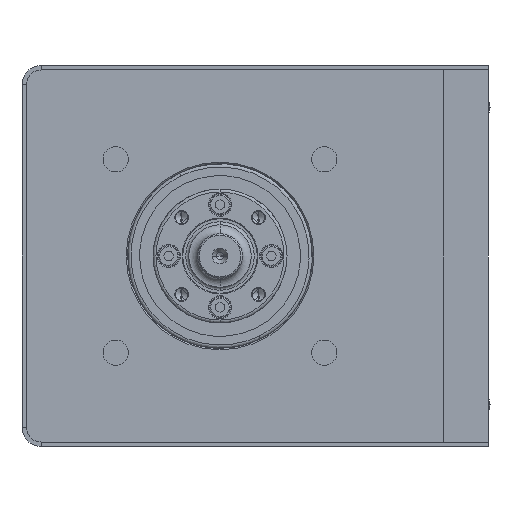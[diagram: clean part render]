
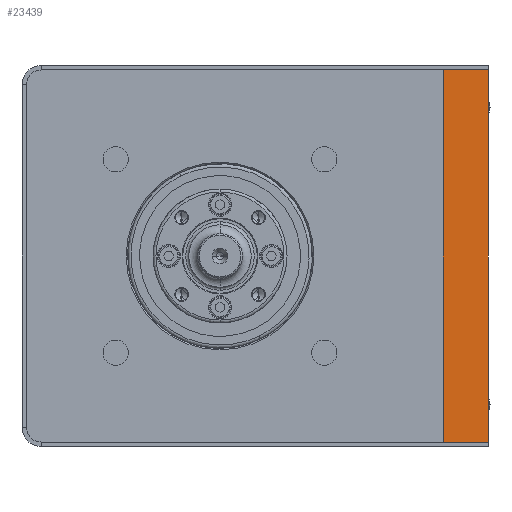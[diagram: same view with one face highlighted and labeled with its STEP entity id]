
A CAD part, left-side view. The second image highlights one B-rep face of the part: STEP entity #23439.
In plain terms, the highlighted planar face has unit normal (-1, 0, 0).
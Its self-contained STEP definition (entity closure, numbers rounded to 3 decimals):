
#587 = DIRECTION ( 'NONE',  ( 0., 0., 1. ) ) ;
#2288 = VECTOR ( 'NONE', #8052, 1000. ) ;
#4488 = EDGE_CURVE ( 'NONE', #9029, #89101, #101626, .T. ) ;
#6733 = PLANE ( 'NONE',  #82900 ) ;
#8052 = DIRECTION ( 'NONE',  ( 0., -1., 0. ) ) ;
#9029 = VERTEX_POINT ( 'NONE', #45119 ) ;
#11040 = CARTESIAN_POINT ( 'NONE',  ( -228.809, 0., -62.5 ) ) ;
#17409 = CARTESIAN_POINT ( 'NONE',  ( -228.809, 0., 62.5 ) ) ;
#18028 = EDGE_LOOP ( 'NONE', ( #28218, #98324, #117205, #78655 ) ) ;
#20472 = FACE_OUTER_BOUND ( 'NONE', #18028, .T. ) ;
#20657 = VECTOR ( 'NONE', #587, 1000. ) ;
#23439 = ADVANCED_FACE ( 'NONE', ( #20472 ), #6733, .F. ) ;
#23973 = CARTESIAN_POINT ( 'NONE',  ( -228.809, 15., -62.5 ) ) ;
#28218 = ORIENTED_EDGE ( 'NONE', *, *, #98713, .T. ) ;
#42808 = DIRECTION ( 'NONE',  ( 0., -1., 0. ) ) ;
#44097 = VECTOR ( 'NONE', #89216, 1000. ) ;
#45119 = CARTESIAN_POINT ( 'NONE',  ( -228.809, 15., -62.5 ) ) ;
#45625 = DIRECTION ( 'NONE',  ( 0., 0., -1. ) ) ;
#46071 = LINE ( 'NONE', #11040, #20657 ) ;
#56567 = VECTOR ( 'NONE', #42808, 1000. ) ;
#59156 = LINE ( 'NONE', #93936, #2288 ) ;
#66584 = LINE ( 'NONE', #118496, #44097 ) ;
#66843 = VERTEX_POINT ( 'NONE', #17409 ) ;
#67100 = CARTESIAN_POINT ( 'NONE',  ( -228.809, 15., 62.5 ) ) ;
#78655 = ORIENTED_EDGE ( 'NONE', *, *, #4488, .T. ) ;
#82900 = AXIS2_PLACEMENT_3D ( 'NONE', #112736, #112326, #45625 ) ;
#89101 = VERTEX_POINT ( 'NONE', #102172 ) ;
#89216 = DIRECTION ( 'NONE',  ( 0., 0., 1. ) ) ;
#93082 = VERTEX_POINT ( 'NONE', #67100 ) ;
#93936 = CARTESIAN_POINT ( 'NONE',  ( -228.809, 15., 62.5 ) ) ;
#98324 = ORIENTED_EDGE ( 'NONE', *, *, #100983, .F. ) ;
#98713 = EDGE_CURVE ( 'NONE', #89101, #66843, #46071, .T. ) ;
#100983 = EDGE_CURVE ( 'NONE', #93082, #66843, #59156, .T. ) ;
#101626 = LINE ( 'NONE', #23973, #56567 ) ;
#102172 = CARTESIAN_POINT ( 'NONE',  ( -228.809, 0., -62.5 ) ) ;
#107977 = EDGE_CURVE ( 'NONE', #9029, #93082, #66584, .T. ) ;
#112326 = DIRECTION ( 'NONE',  ( 1., 0., 0. ) ) ;
#112736 = CARTESIAN_POINT ( 'NONE',  ( -228.809, 15., -62.5 ) ) ;
#117205 = ORIENTED_EDGE ( 'NONE', *, *, #107977, .F. ) ;
#118496 = CARTESIAN_POINT ( 'NONE',  ( -228.809, 15., -62.5 ) ) ;
